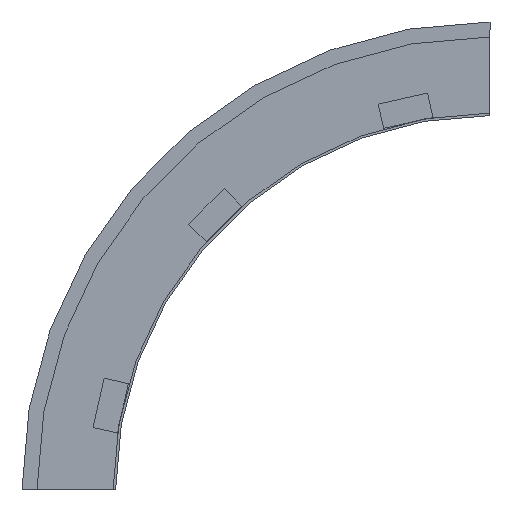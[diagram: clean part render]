
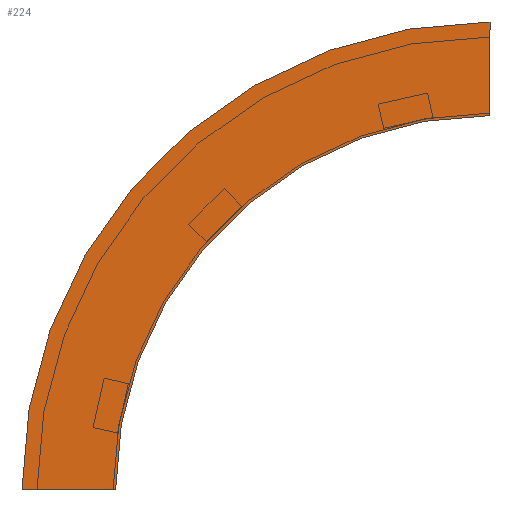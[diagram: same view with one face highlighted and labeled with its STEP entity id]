
A CAD part, left-side view. The second image highlights one B-rep face of the part: STEP entity #224.
In plain terms, the highlighted planar face has unit normal (-1, 0, 0) as drawn and (1, 0, 0) by its records, which use the part's own axes.
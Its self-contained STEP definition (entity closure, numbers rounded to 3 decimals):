
#12 = CARTESIAN_POINT ( 'NONE',  ( 0., 75., 0. ) ) ;
#15 = CARTESIAN_POINT ( 'NONE',  ( 0., -300., 0. ) ) ;
#37 = LINE ( 'NONE', #274, #180 ) ;
#42 = CARTESIAN_POINT ( 'NONE',  ( 0., -300., 300. ) ) ;
#68 = AXIS2_PLACEMENT_3D ( 'NONE', #366, #463, #188 ) ;
#85 = DIRECTION ( 'NONE',  ( 0., 0., -1. ) ) ;
#87 = VERTEX_POINT ( 'NONE', #564 ) ;
#90 = EDGE_LOOP ( 'NONE', ( #204, #309, #433, #493 ) ) ;
#129 = VECTOR ( 'NONE', #357, 1000. ) ;
#158 = PLANE ( 'NONE',  #526 ) ;
#167 = CARTESIAN_POINT ( 'NONE',  ( 0., 0., 0. ) ) ;
#180 = VECTOR ( 'NONE', #259, 1000. ) ;
#188 = DIRECTION ( 'NONE',  ( 0., 1., 0. ) ) ;
#204 = ORIENTED_EDGE ( 'NONE', *, *, #567, .T. ) ;
#224 = ADVANCED_FACE ( 'NONE', ( #382 ), #158, .T. ) ;
#231 = EDGE_CURVE ( 'NONE', #343, #522, #392, .T. ) ;
#259 = DIRECTION ( 'NONE',  ( 0., 0., 1. ) ) ;
#263 = AXIS2_PLACEMENT_3D ( 'NONE', #15, #378, #435 ) ;
#274 = CARTESIAN_POINT ( 'NONE',  ( 0., -300., 300. ) ) ;
#299 = VERTEX_POINT ( 'NONE', #42 ) ;
#309 = ORIENTED_EDGE ( 'NONE', *, *, #354, .F. ) ;
#312 = CARTESIAN_POINT ( 'NONE',  ( 0., 0., 0. ) ) ;
#326 = CIRCLE ( 'NONE', #68, 300. ) ;
#341 = CARTESIAN_POINT ( 'NONE',  ( 0., 0., 0. ) ) ;
#343 = VERTEX_POINT ( 'NONE', #312 ) ;
#354 = EDGE_CURVE ( 'NONE', #299, #87, #37, .T. ) ;
#357 = DIRECTION ( 'NONE',  ( 0., 1., 0. ) ) ;
#366 = CARTESIAN_POINT ( 'NONE',  ( 0., -300., 0. ) ) ;
#378 = DIRECTION ( 'NONE',  ( 1., 0., 0. ) ) ;
#382 = FACE_OUTER_BOUND ( 'NONE', #90, .T. ) ;
#392 = LINE ( 'NONE', #167, #129 ) ;
#398 = EDGE_CURVE ( 'NONE', #343, #299, #326, .T. ) ;
#433 = ORIENTED_EDGE ( 'NONE', *, *, #398, .F. ) ;
#435 = DIRECTION ( 'NONE',  ( 0., 1., 0. ) ) ;
#463 = DIRECTION ( 'NONE',  ( 1., 0., 0. ) ) ;
#493 = ORIENTED_EDGE ( 'NONE', *, *, #231, .T. ) ;
#515 = CIRCLE ( 'NONE', #263, 375. ) ;
#522 = VERTEX_POINT ( 'NONE', #12 ) ;
#526 = AXIS2_PLACEMENT_3D ( 'NONE', #341, #571, #85 ) ;
#564 = CARTESIAN_POINT ( 'NONE',  ( 0., -300., 375. ) ) ;
#567 = EDGE_CURVE ( 'NONE', #522, #87, #515, .T. ) ;
#571 = DIRECTION ( 'NONE',  ( 1., 0., 0. ) ) ;
